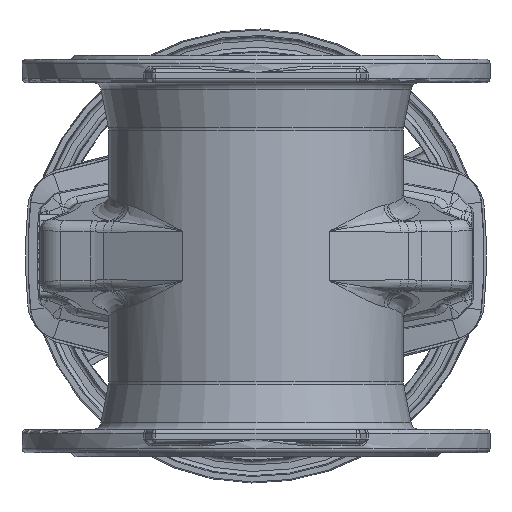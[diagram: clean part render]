
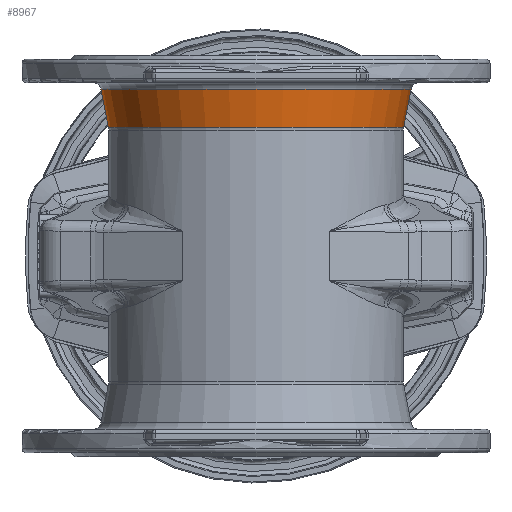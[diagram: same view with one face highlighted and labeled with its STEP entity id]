
A CAD part, front view. The second image highlights one B-rep face of the part: STEP entity #8967.
In plain terms, the highlighted conical face has half-angle 11 degrees and reference radius 112.61 mm.
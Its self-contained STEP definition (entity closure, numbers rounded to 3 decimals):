
#2126 = CARTESIAN_POINT ( 'NONE',  ( 107.22, 0., 93.417 ) ) ;
#2152 = CARTESIAN_POINT ( 'NONE',  ( 112.61, 0., 121.145 ) ) ;
#2678 = DIRECTION ( 'NONE',  ( 1., 0., 0. ) ) ;
#2689 = CARTESIAN_POINT ( 'NONE',  ( 0., 0., 121.145 ) ) ;
#2690 = DIRECTION ( 'NONE',  ( 0., 0., 1. ) ) ;
#3466 = AXIS2_PLACEMENT_3D ( 'NONE', #6623, #6624, #6625 ) ;
#6623 = CARTESIAN_POINT ( 'NONE',  ( 0., 0., 121.145 ) ) ;
#6624 = DIRECTION ( 'NONE',  ( 0., 0., 1. ) ) ;
#6625 = DIRECTION ( 'NONE',  ( 1., 0., 0. ) ) ;
#8967 = ADVANCED_FACE ( 'NONE', ( #29873, #29863 ), #29877, .T. ) ;
#10721 = CIRCLE ( 'NONE', #3466, 112.61 ) ;
#12317 = EDGE_LOOP ( 'NONE', ( #30372 ) ) ;
#12331 = EDGE_LOOP ( 'NONE', ( #30355 ) ) ;
#15253 = EDGE_CURVE ( 'NONE', #22515, #22515, #30190, .T. ) ;
#16010 = AXIS2_PLACEMENT_3D ( 'NONE', #2689, #2690, #2678 ) ;
#16117 = AXIS2_PLACEMENT_3D ( 'NONE', #16879, #16880, #16881 ) ;
#16879 = CARTESIAN_POINT ( 'NONE',  ( 0., 0., 93.417 ) ) ;
#16880 = DIRECTION ( 'NONE',  ( 0., 0., 1. ) ) ;
#16881 = DIRECTION ( 'NONE',  ( 1., 0., 0. ) ) ;
#22515 = VERTEX_POINT ( 'NONE', #2126 ) ;
#22529 = VERTEX_POINT ( 'NONE', #2152 ) ;
#29365 = EDGE_CURVE ( 'NONE', #22529, #22529, #10721, .T. ) ;
#29863 = FACE_OUTER_BOUND ( 'NONE', #12331, .T. ) ;
#29873 = FACE_BOUND ( 'NONE', #12317, .T. ) ;
#29877 = CONICAL_SURFACE ( 'NONE', #16010, 112.61, 0.192 ) ;
#30190 = CIRCLE ( 'NONE', #16117, 107.22 ) ;
#30355 = ORIENTED_EDGE ( 'NONE', *, *, #29365, .F. ) ;
#30372 = ORIENTED_EDGE ( 'NONE', *, *, #15253, .T. ) ;
